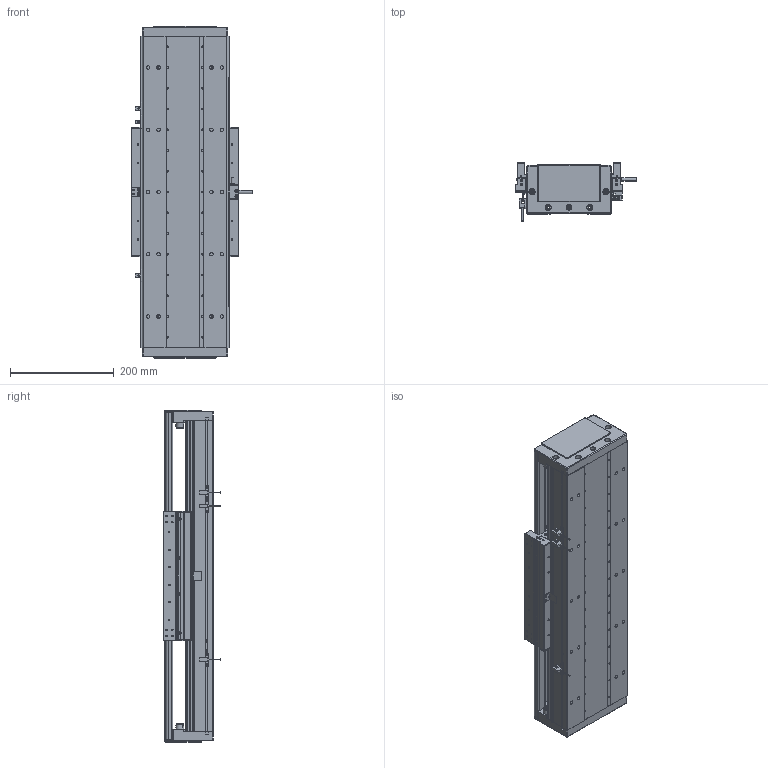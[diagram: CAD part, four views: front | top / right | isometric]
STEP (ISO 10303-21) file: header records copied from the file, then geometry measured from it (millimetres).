
FILE_DESCRIPTION (( 'STEP AP203' ), '1' );
FILE_NAME ('DA-C165-C3-T300-C010-0.2 直线电机.STEP', '2023-06-13T08:38:24', ( '微软用户' ), ( '微软中国' ), 'SwSTEP 2.0', 'SolidWorks 2019', '' );
FILE_SCHEMA (( 'CONFIG_CONTROL_DESIGN' ));
Length unit declared in the file: millimetre
Products named in the file (15): 复件 XD-U-02L 磁栅尺^DA-C165-C3-T-C010-0.2-N 直线电机_T; 葩璃 CKM03-W075-C1C2-TP-3.0^DA-C165-C3-T-C010-0.2-N 眻盄萇儂; 珨极趙賑雄怢啣C3-wf; 复件 DA165-DG-H-N-00 端盖^DA-C165-C3-T-C010-0.2-N 直线电机; 复件 DMA-010-0.2 读数头^DA-C165-C3-T-C010-0.2-N 直线电机; IU-CU165-L 菁釱絳寢; 复件 DA165-GYP-00 光电感应片^DA-C165-C3-T-C010-0.2-N 直线电机; 葩璃 PM-T45^DA-C165-C3-T-C010-0.2-N 眻盄萇儂; 复件 六角薄螺母 M3^DA-C165-C3-T-C010-0.2-N 直线电机_GB_FASTENER_NUT_STNAB M3-C; 葩璃 CKM01-W075-TRL^DA-C165-C3-T-C010-0.2-N 眻盄萇儂; 复件 DA165-T-002-00 盖板^DA-C165-C3-T-C010-0.2-N 直线电机_0840-002-00; 复件 CU165 底座^IU-CU165-L 底座导轨_L600; DA-C165-C3-T300-C010-0.2 眻盄萇儂; 复件 DA95-HXJ-00 缓冲橡胶^DA-C165-C3-T-C010-0.2-N 直线电机; 葩璃 DA95-GT-T-00^IU-CU165-L 菁釱絳寢_T
Assembly tree (30 placements, depth 3):
  DA-C165-C3-T300-C010-0.2 眻盄萇儂
    IU-CU165-L 菁釱絳寢
      复件 CU165 底座^IU-CU165-L 底座导轨_L600
      葩璃 DA95-GT-T-00^IU-CU165-L 菁釱絳寢_T  x4
    复件 DA165-DG-H-N-00 端盖^DA-C165-C3-T-C010-0.2-N 直线电机  x2
    复件 DA95-HXJ-00 缓冲橡胶^DA-C165-C3-T-C010-0.2-N 直线电机  x4
    复件 DA165-T-002-00 盖板^DA-C165-C3-T-C010-0.2-N 直线电机_0840-002-00
    复件 XD-U-02L 磁栅尺^DA-C165-C3-T-C010-0.2-N 直线电机_T
    葩璃 PM-T45^DA-C165-C3-T-C010-0.2-N 眻盄萇儂  x3
    葩璃 CKM01-W075-TRL^DA-C165-C3-T-C010-0.2-N 眻盄萇儂
    复件 DA165-GYP-00 光电感应片^DA-C165-C3-T-C010-0.2-N 直线电机
    复件 DMA-010-0.2 读数头^DA-C165-C3-T-C010-0.2-N 直线电机
    葩璃 CKM03-W075-C1C2-TP-3.0^DA-C165-C3-T-C010-0.2-N 眻盄萇儂
    复件 六角薄螺母 M3^DA-C165-C3-T-C010-0.2-N 直线电机_GB_FASTENER_NUT_STNAB M3-C  x8
    珨极趙賑雄怢啣C3-wf
Bounding box: 233 x 111.45 x 640 mm (x, y, z)
Volume: 6019559.2 mm3; surface area: 1499243.9 mm2
Topology: 68 solids, 118 shells, 3331 faces, 8664 edges, 5326 vertices
Faces by surface type: cylinder 1562, plane 1159, cone 552, torus 54, sphere 4
Entity records: 93835 total; most frequent: CARTESIAN_POINT 20666, DIRECTION 15348, ORIENTED_EDGE 14382, EDGE_CURVE 7191, AXIS2_PLACEMENT_3D 5790, VERTEX_POINT 4614, LINE 3768, VECTOR 3768
